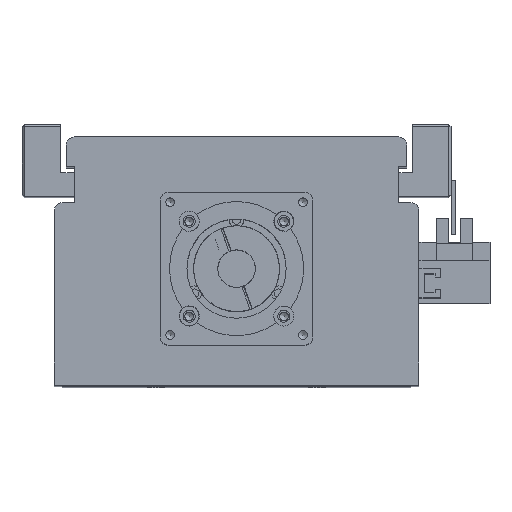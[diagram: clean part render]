
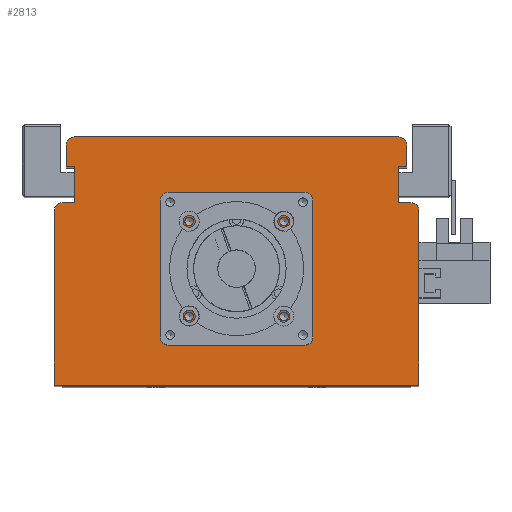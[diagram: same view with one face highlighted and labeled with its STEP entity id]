
A CAD part, top view. The second image highlights one B-rep face of the part: STEP entity #2813.
In plain terms, the highlighted planar face has unit normal (0, 0, 1).
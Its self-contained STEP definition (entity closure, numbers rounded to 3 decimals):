
#1371=CARTESIAN_POINT('',(19.321,61.5,345.));
#1372=VERTEX_POINT('',#1371);
#1373=CARTESIAN_POINT('',(17.7,61.5,345.));
#1374=DIRECTION('',(0.0,0.0,-1.0));
#1375=DIRECTION('',(1.0,0.0,0.0));
#1376=AXIS2_PLACEMENT_3D('',#1373,#1374,#1375);
#1377=CIRCLE('',#1376,1.621);
#1378=EDGE_CURVE('',#1372,#1372,#1377,.T.);
#1450=CARTESIAN_POINT('',(19.321,26.1,345.));
#1451=VERTEX_POINT('',#1450);
#1452=CARTESIAN_POINT('',(17.7,26.1,345.));
#1453=DIRECTION('',(0.0,0.0,-1.0));
#1454=DIRECTION('',(1.0,0.0,0.0));
#1455=AXIS2_PLACEMENT_3D('',#1452,#1453,#1454);
#1456=CIRCLE('',#1455,1.621);
#1457=EDGE_CURVE('',#1451,#1451,#1456,.T.);
#1529=CARTESIAN_POINT('',(-16.079,26.1,345.));
#1530=VERTEX_POINT('',#1529);
#1531=CARTESIAN_POINT('',(-17.7,26.1,345.));
#1532=DIRECTION('',(0.0,0.0,-1.0));
#1533=DIRECTION('',(1.0,0.0,0.0));
#1534=AXIS2_PLACEMENT_3D('',#1531,#1532,#1533);
#1535=CIRCLE('',#1534,1.621);
#1536=EDGE_CURVE('',#1530,#1530,#1535,.T.);
#1608=CARTESIAN_POINT('',(-16.079,61.5,345.));
#1609=VERTEX_POINT('',#1608);
#1610=CARTESIAN_POINT('',(-17.7,61.5,345.));
#1611=DIRECTION('',(0.0,0.0,-1.0));
#1612=DIRECTION('',(1.0,0.0,0.0));
#1613=AXIS2_PLACEMENT_3D('',#1610,#1611,#1612);
#1614=CIRCLE('',#1613,1.621);
#1615=EDGE_CURVE('',#1609,#1609,#1614,.T.);
#1649=CARTESIAN_POINT('',(26.5,43.8,345.));
#1650=VERTEX_POINT('',#1649);
#1651=CARTESIAN_POINT('',(24.5,43.8,345.));
#1652=DIRECTION('',(0.0,0.0,-1.0));
#1653=DIRECTION('',(1.0,0.0,0.0));
#1654=AXIS2_PLACEMENT_3D('',#1651,#1652,#1653);
#1655=CIRCLE('',#1654,2.0);
#1656=EDGE_CURVE('',#1650,#1650,#1655,.T.);
#1698=CARTESIAN_POINT('',(-22.5,43.8,345.));
#1699=VERTEX_POINT('',#1698);
#1700=CARTESIAN_POINT('',(-24.5,43.8,345.));
#1701=DIRECTION('',(0.0,0.0,-1.0));
#1702=DIRECTION('',(1.0,0.0,0.0));
#1703=AXIS2_PLACEMENT_3D('',#1700,#1701,#1702);
#1704=CIRCLE('',#1703,2.0);
#1705=EDGE_CURVE('',#1699,#1699,#1704,.T.);
#2629=CARTESIAN_POINT('',(21.05,43.8,345.));
#2630=VERTEX_POINT('',#2629);
#2631=CARTESIAN_POINT('',(0.0,43.8,345.));
#2632=DIRECTION('',(0.0,0.0,-1.0));
#2633=DIRECTION('',(-1.0,0.0,0.0));
#2634=AXIS2_PLACEMENT_3D('',#2631,#2632,#2633);
#2635=CIRCLE('',#2634,21.05);
#2636=EDGE_CURVE('',#2630,#2630,#2635,.T.);
#2653=CARTESIAN_POINT('',(0.,29.533,345.));
#2654=DIRECTION('',(0.0,0.0,1.0));
#2655=DIRECTION('',(1.0,0.0,0.0));
#2656=AXIS2_PLACEMENT_3D('',#2653,#2654,#2655);
#2657=PLANE('',#2656);
#2658=CARTESIAN_POINT('',(-65.,68.5,345.));
#2659=VERTEX_POINT('',#2658);
#2660=CARTESIAN_POINT('',(-60.5,68.5,345.0));
#2661=VERTEX_POINT('',#2660);
#2662=CARTESIAN_POINT('',(-65.,68.5,345.));
#2663=DIRECTION('',(1.0,0.0,0.0));
#2664=VECTOR('',#2663,4.5);
#2665=LINE('',#2662,#2664);
#2666=EDGE_CURVE('',#2659,#2661,#2665,.T.);
#2667=ORIENTED_EDGE('',*,*,#2666,.F.);
#2668=CARTESIAN_POINT('',(-68.,65.5,345.));
#2669=VERTEX_POINT('',#2668);
#2670=CARTESIAN_POINT('',(-65.,65.5,345.0));
#2671=DIRECTION('',(0.0,0.0,-1.0));
#2672=DIRECTION('',(0.0,1.0,0.0));
#2673=AXIS2_PLACEMENT_3D('',#2670,#2671,#2672);
#2674=CIRCLE('',#2673,3.);
#2675=EDGE_CURVE('',#2669,#2659,#2674,.T.);
#2676=ORIENTED_EDGE('',*,*,#2675,.F.);
#2677=CARTESIAN_POINT('',(-68.0,0.5,345.));
#2678=VERTEX_POINT('',#2677);
#2679=CARTESIAN_POINT('',(-68.0,0.5,345.));
#2680=DIRECTION('',(0.0,1.0,0.0));
#2681=VECTOR('',#2680,65.0);
#2682=LINE('',#2679,#2681);
#2683=EDGE_CURVE('',#2678,#2669,#2682,.T.);
#2684=ORIENTED_EDGE('',*,*,#2683,.F.);
#2685=CARTESIAN_POINT('',(68.0,0.5,345.));
#2686=VERTEX_POINT('',#2685);
#2687=CARTESIAN_POINT('',(68.0,0.5,345.));
#2688=DIRECTION('',(-1.0,0.0,0.0));
#2689=VECTOR('',#2688,136.0);
#2690=LINE('',#2687,#2689);
#2691=EDGE_CURVE('',#2686,#2678,#2690,.T.);
#2692=ORIENTED_EDGE('',*,*,#2691,.F.);
#2693=CARTESIAN_POINT('',(68.0,65.5,345.));
#2694=VERTEX_POINT('',#2693);
#2695=CARTESIAN_POINT('',(68.0,65.5,345.));
#2696=DIRECTION('',(0.0,-1.0,0.0));
#2697=VECTOR('',#2696,65.0);
#2698=LINE('',#2695,#2697);
#2699=EDGE_CURVE('',#2694,#2686,#2698,.T.);
#2700=ORIENTED_EDGE('',*,*,#2699,.F.);
#2701=CARTESIAN_POINT('',(65.,68.5,345.));
#2702=VERTEX_POINT('',#2701);
#2703=CARTESIAN_POINT('',(65.,65.5,345.0));
#2704=DIRECTION('',(0.0,0.0,-1.0));
#2705=DIRECTION('',(1.0,0.0,0.0));
#2706=AXIS2_PLACEMENT_3D('',#2703,#2704,#2705);
#2707=CIRCLE('',#2706,3.);
#2708=EDGE_CURVE('',#2702,#2694,#2707,.T.);
#2709=ORIENTED_EDGE('',*,*,#2708,.F.);
#2710=CARTESIAN_POINT('',(60.5,68.5,345.0));
#2711=VERTEX_POINT('',#2710);
#2712=CARTESIAN_POINT('',(60.5,68.5,345.0));
#2713=DIRECTION('',(1.0,0.0,0.0));
#2714=VECTOR('',#2713,4.5);
#2715=LINE('',#2712,#2714);
#2716=EDGE_CURVE('',#2711,#2702,#2715,.T.);
#2717=ORIENTED_EDGE('',*,*,#2716,.F.);
#2718=CARTESIAN_POINT('',(60.5,82.,345.));
#2719=VERTEX_POINT('',#2718);
#2720=CARTESIAN_POINT('',(60.5,82.,345.));
#2721=DIRECTION('',(0.0,-1.0,0.0));
#2722=VECTOR('',#2721,13.5);
#2723=LINE('',#2720,#2722);
#2724=EDGE_CURVE('',#2719,#2711,#2723,.T.);
#2725=ORIENTED_EDGE('',*,*,#2724,.F.);
#2726=CARTESIAN_POINT('',(63.5,82.,345.));
#2727=VERTEX_POINT('',#2726);
#2728=CARTESIAN_POINT('',(63.5,82.,345.));
#2729=DIRECTION('',(-1.0,0.0,0.0));
#2730=VECTOR('',#2729,3.0);
#2731=LINE('',#2728,#2730);
#2732=EDGE_CURVE('',#2727,#2719,#2731,.T.);
#2733=ORIENTED_EDGE('',*,*,#2732,.F.);
#2734=CARTESIAN_POINT('',(63.5,90.0,345.));
#2735=VERTEX_POINT('',#2734);
#2736=CARTESIAN_POINT('',(63.5,90.0,345.));
#2737=DIRECTION('',(0.0,-1.0,0.0));
#2738=VECTOR('',#2737,8.);
#2739=LINE('',#2736,#2738);
#2740=EDGE_CURVE('',#2735,#2727,#2739,.T.);
#2741=ORIENTED_EDGE('',*,*,#2740,.F.);
#2742=CARTESIAN_POINT('',(60.5,93.,345.));
#2743=VERTEX_POINT('',#2742);
#2744=CARTESIAN_POINT('',(60.5,90.0,345.0));
#2745=DIRECTION('',(0.0,0.0,-1.0));
#2746=DIRECTION('',(1.0,0.0,0.0));
#2747=AXIS2_PLACEMENT_3D('',#2744,#2745,#2746);
#2748=CIRCLE('',#2747,3.);
#2749=EDGE_CURVE('',#2743,#2735,#2748,.T.);
#2750=ORIENTED_EDGE('',*,*,#2749,.F.);
#2751=CARTESIAN_POINT('',(-60.5,93.0,345.));
#2752=VERTEX_POINT('',#2751);
#2753=CARTESIAN_POINT('',(-60.5,93.0,345.));
#2754=DIRECTION('',(1.0,0.0,0.0));
#2755=VECTOR('',#2754,121.0);
#2756=LINE('',#2753,#2755);
#2757=EDGE_CURVE('',#2752,#2743,#2756,.T.);
#2758=ORIENTED_EDGE('',*,*,#2757,.F.);
#2759=CARTESIAN_POINT('',(-63.5,90.0,345.));
#2760=VERTEX_POINT('',#2759);
#2761=CARTESIAN_POINT('',(-60.5,90.0,345.0));
#2762=DIRECTION('',(0.0,0.0,-1.0));
#2763=DIRECTION('',(0.0,1.0,0.0));
#2764=AXIS2_PLACEMENT_3D('',#2761,#2762,#2763);
#2765=CIRCLE('',#2764,3.);
#2766=EDGE_CURVE('',#2760,#2752,#2765,.T.);
#2767=ORIENTED_EDGE('',*,*,#2766,.F.);
#2768=CARTESIAN_POINT('',(-63.5,82.,345.));
#2769=VERTEX_POINT('',#2768);
#2770=CARTESIAN_POINT('',(-63.5,82.,345.));
#2771=DIRECTION('',(0.0,1.0,0.0));
#2772=VECTOR('',#2771,8.);
#2773=LINE('',#2770,#2772);
#2774=EDGE_CURVE('',#2769,#2760,#2773,.T.);
#2775=ORIENTED_EDGE('',*,*,#2774,.F.);
#2776=CARTESIAN_POINT('',(-60.5,82.,345.));
#2777=VERTEX_POINT('',#2776);
#2778=CARTESIAN_POINT('',(-60.5,82.,345.));
#2779=DIRECTION('',(-1.0,0.0,0.0));
#2780=VECTOR('',#2779,3.);
#2781=LINE('',#2778,#2780);
#2782=EDGE_CURVE('',#2777,#2769,#2781,.T.);
#2783=ORIENTED_EDGE('',*,*,#2782,.F.);
#2784=CARTESIAN_POINT('',(-60.5,68.5,345.0));
#2785=DIRECTION('',(0.0,1.0,0.0));
#2786=VECTOR('',#2785,13.5);
#2787=LINE('',#2784,#2786);
#2788=EDGE_CURVE('',#2661,#2777,#2787,.T.);
#2789=ORIENTED_EDGE('',*,*,#2788,.F.);
#2790=EDGE_LOOP('',(#2667,#2676,#2684,#2692,#2700,#2709,#2717,#2725,#2733,#2741,#2750,#2758,#2767,#2775,#2783,#2789));
#2791=FACE_OUTER_BOUND('',#2790,.T.);
#2792=ORIENTED_EDGE('',*,*,#1378,.T.);
#2793=EDGE_LOOP('',(#2792));
#2794=FACE_BOUND('',#2793,.T.);
#2795=ORIENTED_EDGE('',*,*,#1457,.T.);
#2796=EDGE_LOOP('',(#2795));
#2797=FACE_BOUND('',#2796,.T.);
#2798=ORIENTED_EDGE('',*,*,#1536,.T.);
#2799=EDGE_LOOP('',(#2798));
#2800=FACE_BOUND('',#2799,.T.);
#2801=ORIENTED_EDGE('',*,*,#1615,.T.);
#2802=EDGE_LOOP('',(#2801));
#2803=FACE_BOUND('',#2802,.T.);
#2804=ORIENTED_EDGE('',*,*,#1656,.T.);
#2805=EDGE_LOOP('',(#2804));
#2806=FACE_BOUND('',#2805,.T.);
#2807=ORIENTED_EDGE('',*,*,#1705,.T.);
#2808=EDGE_LOOP('',(#2807));
#2809=FACE_BOUND('',#2808,.T.);
#2810=ORIENTED_EDGE('',*,*,#2636,.T.);
#2811=EDGE_LOOP('',(#2810));
#2812=FACE_BOUND('',#2811,.T.);
#2813=ADVANCED_FACE('',(#2791,#2794,#2797,#2800,#2803,#2806,#2809,#2812),#2657,.T.);
